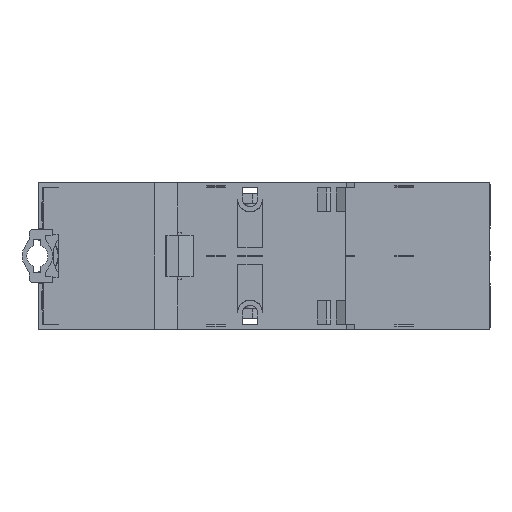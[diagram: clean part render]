
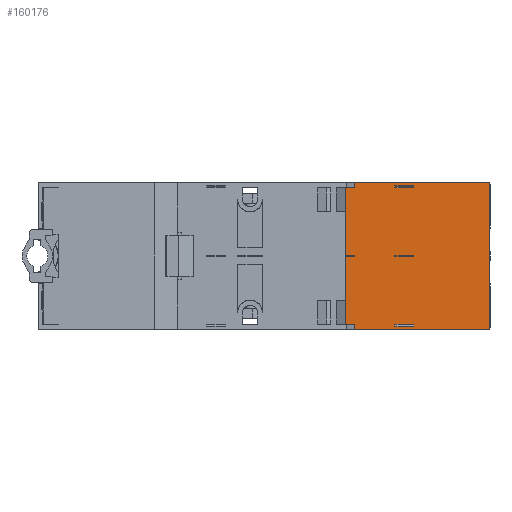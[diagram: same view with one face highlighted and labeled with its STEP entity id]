
A CAD part, front view. The second image highlights one B-rep face of the part: STEP entity #160176.
In plain terms, the highlighted planar face has unit normal (0, -1, 0).
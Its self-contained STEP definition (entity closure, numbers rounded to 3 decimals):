
#11069=PLANE('',#198507);
#22381=LINE('',#271852,#44541);
#22382=LINE('',#271855,#44542);
#22383=LINE('',#271857,#44543);
#22384=LINE('',#271859,#44544);
#22385=LINE('',#271860,#44545);
#22386=LINE('',#271863,#44546);
#22387=LINE('',#271865,#44547);
#22388=LINE('',#271867,#44548);
#22389=LINE('',#271868,#44549);
#22390=LINE('',#271871,#44550);
#22391=LINE('',#271873,#44551);
#22392=LINE('',#271875,#44552);
#22393=LINE('',#271876,#44553);
#22394=LINE('',#271879,#44554);
#22395=LINE('',#271883,#44555);
#22396=LINE('',#271887,#44556);
#22397=LINE('',#271889,#44557);
#22398=LINE('',#271891,#44558);
#22399=LINE('',#271893,#44559);
#22400=LINE('',#271895,#44560);
#22401=LINE('',#271897,#44561);
#22402=LINE('',#271899,#44562);
#22403=LINE('',#271901,#44563);
#22404=LINE('',#271903,#44564);
#44541=VECTOR('',#220748,1000.);
#44542=VECTOR('',#220749,1000.);
#44543=VECTOR('',#220750,1000.);
#44544=VECTOR('',#220751,1000.);
#44545=VECTOR('',#220752,1000.);
#44546=VECTOR('',#220753,1000.);
#44547=VECTOR('',#220754,1000.);
#44548=VECTOR('',#220755,1000.);
#44549=VECTOR('',#220756,1000.);
#44550=VECTOR('',#220757,1000.);
#44551=VECTOR('',#220758,1000.);
#44552=VECTOR('',#220759,1000.);
#44553=VECTOR('',#220760,1000.);
#44554=VECTOR('',#220761,1000.);
#44555=VECTOR('',#220764,1000.);
#44556=VECTOR('',#220767,1000.);
#44557=VECTOR('',#220768,1000.);
#44558=VECTOR('',#220769,1000.);
#44559=VECTOR('',#220770,1000.);
#44560=VECTOR('',#220771,1000.);
#44561=VECTOR('',#220772,1000.);
#44562=VECTOR('',#220773,1000.);
#44563=VECTOR('',#220774,1000.);
#44564=VECTOR('',#220775,1000.);
#69418=ORIENTED_EDGE('',*,*,#99734,.F.);
#69419=ORIENTED_EDGE('',*,*,#99735,.T.);
#69420=ORIENTED_EDGE('',*,*,#99736,.T.);
#69421=ORIENTED_EDGE('',*,*,#99737,.F.);
#69422=ORIENTED_EDGE('',*,*,#99738,.F.);
#69423=ORIENTED_EDGE('',*,*,#99739,.T.);
#69424=ORIENTED_EDGE('',*,*,#99740,.F.);
#69425=ORIENTED_EDGE('',*,*,#99741,.F.);
#69426=ORIENTED_EDGE('',*,*,#99742,.F.);
#69427=ORIENTED_EDGE('',*,*,#99743,.T.);
#69428=ORIENTED_EDGE('',*,*,#99744,.T.);
#69429=ORIENTED_EDGE('',*,*,#99745,.F.);
#69430=ORIENTED_EDGE('',*,*,#99746,.F.);
#69431=ORIENTED_EDGE('',*,*,#99747,.F.);
#69432=ORIENTED_EDGE('',*,*,#99748,.F.);
#69433=ORIENTED_EDGE('',*,*,#99749,.T.);
#69434=ORIENTED_EDGE('',*,*,#99750,.F.);
#69435=ORIENTED_EDGE('',*,*,#99751,.F.);
#69436=ORIENTED_EDGE('',*,*,#99752,.F.);
#69437=ORIENTED_EDGE('',*,*,#99753,.F.);
#69438=ORIENTED_EDGE('',*,*,#99754,.F.);
#69439=ORIENTED_EDGE('',*,*,#99755,.F.);
#69440=ORIENTED_EDGE('',*,*,#99756,.F.);
#69441=ORIENTED_EDGE('',*,*,#99757,.F.);
#69442=ORIENTED_EDGE('',*,*,#99758,.F.);
#69443=ORIENTED_EDGE('',*,*,#99759,.F.);
#99734=EDGE_CURVE('',#126383,#126384,#22381,.T.);
#99735=EDGE_CURVE('',#126383,#126385,#22382,.T.);
#99736=EDGE_CURVE('',#126385,#126386,#22383,.T.);
#99737=EDGE_CURVE('',#126384,#126386,#22384,.T.);
#99738=EDGE_CURVE('',#126387,#126388,#22385,.T.);
#99739=EDGE_CURVE('',#126387,#126389,#22386,.T.);
#99740=EDGE_CURVE('',#126390,#126389,#22387,.T.);
#99741=EDGE_CURVE('',#126388,#126390,#22388,.T.);
#99742=EDGE_CURVE('',#126391,#126392,#22389,.T.);
#99743=EDGE_CURVE('',#126391,#126393,#22390,.T.);
#99744=EDGE_CURVE('',#126393,#126394,#22391,.T.);
#99745=EDGE_CURVE('',#126392,#126394,#22392,.T.);
#99746=EDGE_CURVE('',#126395,#126396,#22393,.T.);
#99747=EDGE_CURVE('',#126397,#126395,#22394,.T.);
#99748=EDGE_CURVE('',#126398,#126397,#143191,.T.);
#99749=EDGE_CURVE('',#126398,#126399,#22395,.T.);
#99750=EDGE_CURVE('',#126400,#126399,#143192,.T.);
#99751=EDGE_CURVE('',#126401,#126400,#22396,.T.);
#99752=EDGE_CURVE('',#126402,#126401,#22397,.T.);
#99753=EDGE_CURVE('',#126403,#126402,#22398,.T.);
#99754=EDGE_CURVE('',#126404,#126403,#22399,.T.);
#99755=EDGE_CURVE('',#126405,#126404,#22400,.T.);
#99756=EDGE_CURVE('',#126406,#126405,#22401,.T.);
#99757=EDGE_CURVE('',#126407,#126406,#22402,.T.);
#99758=EDGE_CURVE('',#126408,#126407,#22403,.T.);
#99759=EDGE_CURVE('',#126396,#126408,#22404,.T.);
#126383=VERTEX_POINT('',#271853);
#126384=VERTEX_POINT('',#271854);
#126385=VERTEX_POINT('',#271856);
#126386=VERTEX_POINT('',#271858);
#126387=VERTEX_POINT('',#271861);
#126388=VERTEX_POINT('',#271862);
#126389=VERTEX_POINT('',#271864);
#126390=VERTEX_POINT('',#271866);
#126391=VERTEX_POINT('',#271869);
#126392=VERTEX_POINT('',#271870);
#126393=VERTEX_POINT('',#271872);
#126394=VERTEX_POINT('',#271874);
#126395=VERTEX_POINT('',#271877);
#126396=VERTEX_POINT('',#271878);
#126397=VERTEX_POINT('',#271880);
#126398=VERTEX_POINT('',#271882);
#126399=VERTEX_POINT('',#271884);
#126400=VERTEX_POINT('',#271886);
#126401=VERTEX_POINT('',#271888);
#126402=VERTEX_POINT('',#271890);
#126403=VERTEX_POINT('',#271892);
#126404=VERTEX_POINT('',#271894);
#126405=VERTEX_POINT('',#271896);
#126406=VERTEX_POINT('',#271898);
#126407=VERTEX_POINT('',#271900);
#126408=VERTEX_POINT('',#271902);
#143191=CIRCLE('',#198508,0.3);
#143192=CIRCLE('',#198509,0.3);
#146839=EDGE_LOOP('',(#69418,#69419,#69420,#69421));
#146840=EDGE_LOOP('',(#69422,#69423,#69424,#69425));
#146841=EDGE_LOOP('',(#69426,#69427,#69428,#69429));
#146842=EDGE_LOOP('',(#69430,#69431,#69432,#69433,#69434,#69435,#69436,
#69437,#69438,#69439,#69440,#69441,#69442,#69443));
#153083=FACE_BOUND('',#146839,.T.);
#153084=FACE_BOUND('',#146840,.T.);
#153085=FACE_BOUND('',#146841,.T.);
#153086=FACE_BOUND('',#146842,.T.);
#160176=ADVANCED_FACE('',(#153083,#153084,#153085,#153086),#11069,.T.);
#198507=AXIS2_PLACEMENT_3D('',#271851,#220746,#220747);
#198508=AXIS2_PLACEMENT_3D('',#271881,#220762,#220763);
#198509=AXIS2_PLACEMENT_3D('',#271885,#220765,#220766);
#220746=DIRECTION('',(0.,-1.,0.));
#220747=DIRECTION('',(1.,0.,0.));
#220748=DIRECTION('',(1.,0.,0.));
#220749=DIRECTION('',(0.,0.,1.));
#220750=DIRECTION('',(1.,0.,0.));
#220751=DIRECTION('',(0.,0.,1.));
#220752=DIRECTION('',(1.,0.,0.));
#220753=DIRECTION('',(0.,0.,1.));
#220754=DIRECTION('',(-1.,0.,0.));
#220755=DIRECTION('',(0.,0.,1.));
#220756=DIRECTION('',(0.,0.,1.));
#220757=DIRECTION('',(-1.,0.,0.));
#220758=DIRECTION('',(0.,0.,1.));
#220759=DIRECTION('',(-1.,0.,0.));
#220760=DIRECTION('',(0.,0.,1.));
#220761=DIRECTION('',(-1.,0.,0.));
#220762=DIRECTION('',(0.,1.,0.));
#220763=DIRECTION('',(0.707,0.,-0.707));
#220764=DIRECTION('',(0.,0.,1.));
#220765=DIRECTION('',(0.,1.,0.));
#220766=DIRECTION('',(0.707,0.,0.707));
#220767=DIRECTION('',(1.,0.,0.));
#220768=DIRECTION('',(0.,0.,1.));
#220769=DIRECTION('',(1.,0.,0.));
#220770=DIRECTION('',(0.,0.,1.));
#220771=DIRECTION('',(-1.,0.,0.));
#220772=DIRECTION('',(0.,0.,1.));
#220773=DIRECTION('',(1.,0.,0.));
#220774=DIRECTION('',(0.,0.,1.));
#220775=DIRECTION('',(-1.,0.,0.));
#271851=CARTESIAN_POINT('',(66.825,0.,0.));
#271852=CARTESIAN_POINT('',(65.,0.,14.4));
#271853=CARTESIAN_POINT('',(75.4,0.,14.4));
#271854=CARTESIAN_POINT('',(79.4,0.,14.4));
#271855=CARTESIAN_POINT('',(75.4,0.,-14.5));
#271856=CARTESIAN_POINT('',(75.4,0.,14.8));
#271857=CARTESIAN_POINT('',(72.113,0.,14.8));
#271858=CARTESIAN_POINT('',(79.4,0.,14.8));
#271859=CARTESIAN_POINT('',(79.4,0.,-14.5));
#271860=CARTESIAN_POINT('',(65.,0.,-0.05));
#271861=CARTESIAN_POINT('',(75.4,0.,-0.05));
#271862=CARTESIAN_POINT('',(79.4,0.,-0.05));
#271863=CARTESIAN_POINT('',(75.4,0.,-14.5));
#271864=CARTESIAN_POINT('',(75.4,0.,0.05));
#271865=CARTESIAN_POINT('',(94.4,0.,0.05));
#271866=CARTESIAN_POINT('',(79.4,0.,0.05));
#271867=CARTESIAN_POINT('',(79.4,0.,-14.5));
#271868=CARTESIAN_POINT('',(79.4,0.,-14.5));
#271869=CARTESIAN_POINT('',(79.4,0.,-14.8));
#271870=CARTESIAN_POINT('',(79.4,0.,-14.4));
#271871=CARTESIAN_POINT('',(72.113,0.,-14.8));
#271872=CARTESIAN_POINT('',(75.4,0.,-14.8));
#271873=CARTESIAN_POINT('',(75.4,0.,-14.5));
#271874=CARTESIAN_POINT('',(75.4,0.,-14.4));
#271875=CARTESIAN_POINT('',(65.,0.,-14.4));
#271876=CARTESIAN_POINT('',(66.825,0.,0.));
#271877=CARTESIAN_POINT('',(66.825,0.,-15.5));
#271878=CARTESIAN_POINT('',(66.825,0.,-14.4));
#271879=CARTESIAN_POINT('',(66.825,0.,-15.5));
#271880=CARTESIAN_POINT('',(95.2,0.,-15.5));
#271881=CARTESIAN_POINT('',(95.2,0.,-15.2));
#271882=CARTESIAN_POINT('',(95.5,0.,-15.2));
#271883=CARTESIAN_POINT('',(95.5,0.,0.));
#271884=CARTESIAN_POINT('',(95.5,0.,15.2));
#271885=CARTESIAN_POINT('',(95.2,0.,15.2));
#271886=CARTESIAN_POINT('',(95.2,0.,15.5));
#271887=CARTESIAN_POINT('',(66.825,0.,15.5));
#271888=CARTESIAN_POINT('',(66.825,0.,15.5));
#271889=CARTESIAN_POINT('',(66.825,0.,0.));
#271890=CARTESIAN_POINT('',(66.825,0.,14.4));
#271891=CARTESIAN_POINT('',(65.,0.,14.4));
#271892=CARTESIAN_POINT('',(65.,0.,14.4));
#271893=CARTESIAN_POINT('',(65.,0.,7.6));
#271894=CARTESIAN_POINT('',(65.,0.,0.05));
#271895=CARTESIAN_POINT('',(94.4,0.,0.05));
#271896=CARTESIAN_POINT('',(66.825,0.,0.05));
#271897=CARTESIAN_POINT('',(66.825,0.,0.));
#271898=CARTESIAN_POINT('',(66.825,0.,-0.05));
#271899=CARTESIAN_POINT('',(65.,0.,-0.05));
#271900=CARTESIAN_POINT('',(65.,0.,-0.05));
#271901=CARTESIAN_POINT('',(65.,0.,-7.6));
#271902=CARTESIAN_POINT('',(65.,0.,-14.4));
#271903=CARTESIAN_POINT('',(65.,0.,-14.4));
